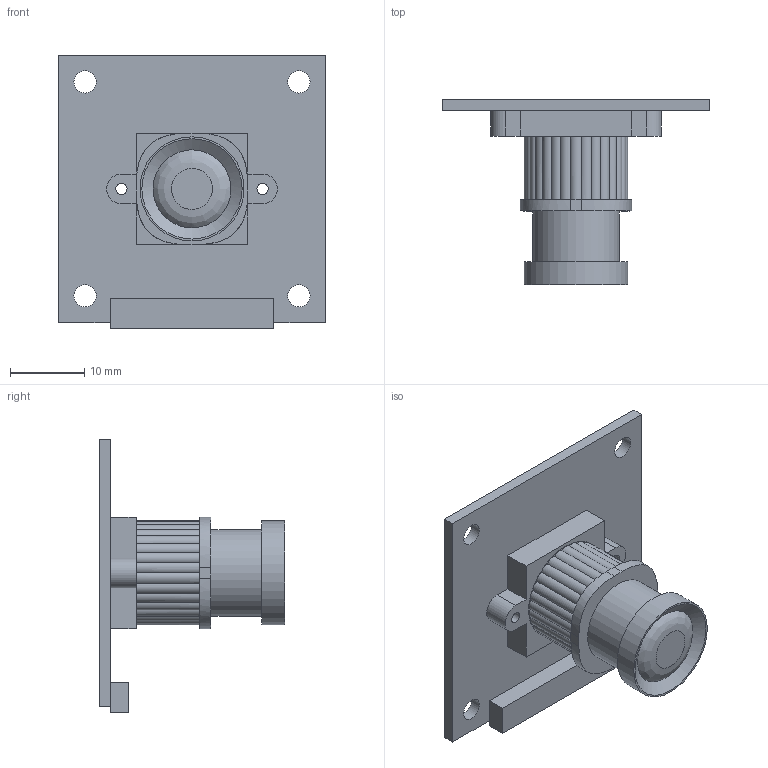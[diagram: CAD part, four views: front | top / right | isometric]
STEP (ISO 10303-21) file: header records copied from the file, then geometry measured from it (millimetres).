
FILE_DESCRIPTION(/* description */ ('STEP AP242','CAx-IF Rec.Pracs.---Representation and Presentation of Product Manufacturing Information (PMI)---4.0---2014-10-13','CAx-IF Rec.Pracs.---3D Tessellated Geometry---0.4---2014-09-14','2;1'),/* implementation_level */ '2;1');
FILE_NAME(/* name */ '689825951731f8516f3f7c56',/* time_stamp */ '2025-08-10T04:52:38Z',/* author */ (''),/* organization */ (''),/* preprocessor_version */ 'ST-DEVELOPER v20',/* originating_system */ 'ONSHAPE BY PTC INC, 1.202',/* authorisation */ ' ');
FILE_SCHEMA (('AP242_MANAGED_MODEL_BASED_3D_ENGINEERING_MIM_LF { 1 0 10303 442 1 1 4 }'));
Length unit declared in the file: metre
Products named in the file (1): Part 1
Bounding box: 36 x 25 x 36.84 mm (x, y, z)
Volume: 5662 mm3; surface area: 4461.7 mm2
Topology: 1 solids, 1 shells, 84 faces, 252 edges, 178 vertices
Faces by surface type: cylinder 40, plane 38, bspline 5, cone 1
Full cylindrical faces by diameter (mm): 1.5 x2, 3 x4, 11.663 x1, 14 x1
Entity records: 3164 total; most frequent: CARTESIAN_POINT 698, DIRECTION 490, ORIENTED_EDGE 478, EDGE_CURVE 239, AXIS2_PLACEMENT_3D 190, VERTEX_POINT 175, EDGE_LOOP 114, FACE_BOUND 114
